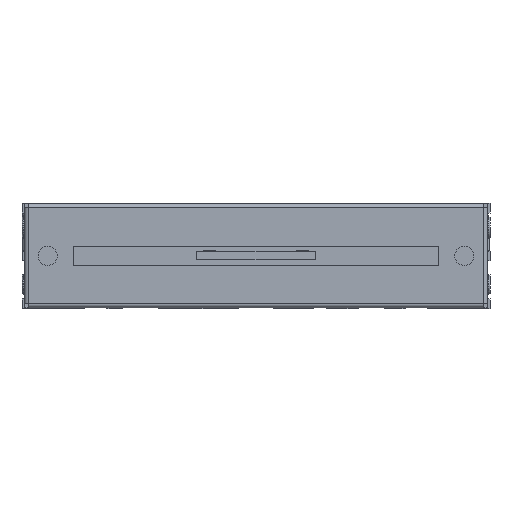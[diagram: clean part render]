
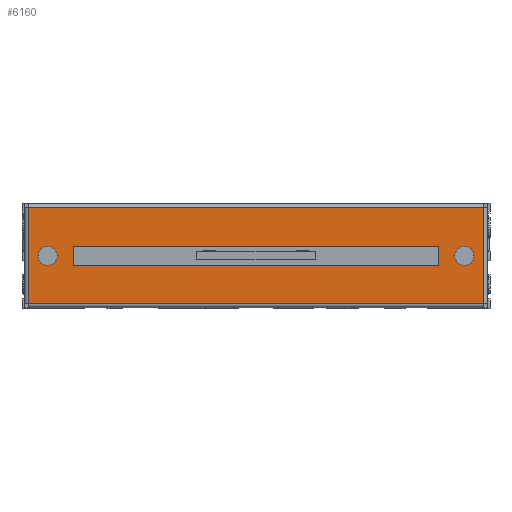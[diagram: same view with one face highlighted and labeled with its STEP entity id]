
A CAD part, top view. The second image highlights one B-rep face of the part: STEP entity #6160.
In plain terms, the highlighted planar face has unit normal (0, 0, 1).
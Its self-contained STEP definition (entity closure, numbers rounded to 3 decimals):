
#1298 = VERTEX_POINT('',#1299);
#1299 = CARTESIAN_POINT('',(-35.5,7.5,0.));
#1308 = VERTEX_POINT('',#1309);
#1309 = CARTESIAN_POINT('',(35.5,7.5,0.));
#1316 = EDGE_CURVE('',#1298,#1308,#1317,.T.);
#1317 = LINE('',#1318,#1319);
#1318 = CARTESIAN_POINT('',(-35.5,7.5,0.));
#1319 = VECTOR('',#1320,1.);
#1320 = DIRECTION('',(1.,0.,0.));
#6160 = ADVANCED_FACE('',(#6161,#6186,#6197,#6208),#6242,.T.);
#6161 = FACE_BOUND('',#6162,.T.);
#6162 = EDGE_LOOP('',(#6163,#6164,#6172,#6180));
#6163 = ORIENTED_EDGE('',*,*,#1316,.F.);
#6164 = ORIENTED_EDGE('',*,*,#6165,.T.);
#6165 = EDGE_CURVE('',#1298,#6166,#6168,.T.);
#6166 = VERTEX_POINT('',#6167);
#6167 = CARTESIAN_POINT('',(-35.5,-7.5,0.));
#6168 = LINE('',#6169,#6170);
#6169 = CARTESIAN_POINT('',(-35.5,7.5,0.));
#6170 = VECTOR('',#6171,1.);
#6171 = DIRECTION('',(0.,-1.,0.));
#6172 = ORIENTED_EDGE('',*,*,#6173,.T.);
#6173 = EDGE_CURVE('',#6166,#6174,#6176,.T.);
#6174 = VERTEX_POINT('',#6175);
#6175 = CARTESIAN_POINT('',(35.5,-7.5,0.));
#6176 = LINE('',#6177,#6178);
#6177 = CARTESIAN_POINT('',(-35.5,-7.5,0.));
#6178 = VECTOR('',#6179,1.);
#6179 = DIRECTION('',(1.,0.,0.));
#6180 = ORIENTED_EDGE('',*,*,#6181,.F.);
#6181 = EDGE_CURVE('',#1308,#6174,#6182,.T.);
#6182 = LINE('',#6183,#6184);
#6183 = CARTESIAN_POINT('',(35.5,7.5,0.));
#6184 = VECTOR('',#6185,1.);
#6185 = DIRECTION('',(0.,-1.,0.));
#6186 = FACE_BOUND('',#6187,.T.);
#6187 = EDGE_LOOP('',(#6188));
#6188 = ORIENTED_EDGE('',*,*,#6189,.T.);
#6189 = EDGE_CURVE('',#6190,#6190,#6192,.T.);
#6190 = VERTEX_POINT('',#6191);
#6191 = CARTESIAN_POINT('',(31.,0.,0.));
#6192 = CIRCLE('',#6193,1.5);
#6193 = AXIS2_PLACEMENT_3D('',#6194,#6195,#6196);
#6194 = CARTESIAN_POINT('',(32.5,0.,0.));
#6195 = DIRECTION('',(0.,0.,-1.));
#6196 = DIRECTION('',(-1.,0.,0.));
#6197 = FACE_BOUND('',#6198,.T.);
#6198 = EDGE_LOOP('',(#6199));
#6199 = ORIENTED_EDGE('',*,*,#6200,.T.);
#6200 = EDGE_CURVE('',#6201,#6201,#6203,.T.);
#6201 = VERTEX_POINT('',#6202);
#6202 = CARTESIAN_POINT('',(-31.,0.,0.));
#6203 = CIRCLE('',#6204,1.5);
#6204 = AXIS2_PLACEMENT_3D('',#6205,#6206,#6207);
#6205 = CARTESIAN_POINT('',(-32.5,0.,0.));
#6206 = DIRECTION('',(0.,0.,-1.));
#6207 = DIRECTION('',(1.,0.,0.));
#6208 = FACE_BOUND('',#6209,.T.);
#6209 = EDGE_LOOP('',(#6210,#6220,#6228,#6236));
#6210 = ORIENTED_EDGE('',*,*,#6211,.T.);
#6211 = EDGE_CURVE('',#6212,#6214,#6216,.T.);
#6212 = VERTEX_POINT('',#6213);
#6213 = CARTESIAN_POINT('',(28.5,-1.5,0.));
#6214 = VERTEX_POINT('',#6215);
#6215 = CARTESIAN_POINT('',(-28.5,-1.5,0.));
#6216 = LINE('',#6217,#6218);
#6217 = CARTESIAN_POINT('',(-32.3,-1.5,0.));
#6218 = VECTOR('',#6219,1.);
#6219 = DIRECTION('',(-1.,0.,0.));
#6220 = ORIENTED_EDGE('',*,*,#6221,.T.);
#6221 = EDGE_CURVE('',#6214,#6222,#6224,.T.);
#6222 = VERTEX_POINT('',#6223);
#6223 = CARTESIAN_POINT('',(-28.5,1.5,0.));
#6224 = LINE('',#6225,#6226);
#6225 = CARTESIAN_POINT('',(-28.5,3.3,0.));
#6226 = VECTOR('',#6227,1.);
#6227 = DIRECTION('',(0.,1.,0.));
#6228 = ORIENTED_EDGE('',*,*,#6229,.F.);
#6229 = EDGE_CURVE('',#6230,#6222,#6232,.T.);
#6230 = VERTEX_POINT('',#6231);
#6231 = CARTESIAN_POINT('',(28.5,1.5,0.));
#6232 = LINE('',#6233,#6234);
#6233 = CARTESIAN_POINT('',(-32.3,1.5,0.));
#6234 = VECTOR('',#6235,1.);
#6235 = DIRECTION('',(-1.,0.,0.));
#6236 = ORIENTED_EDGE('',*,*,#6237,.F.);
#6237 = EDGE_CURVE('',#6212,#6230,#6238,.T.);
#6238 = LINE('',#6239,#6240);
#6239 = CARTESIAN_POINT('',(28.5,3.3,0.));
#6240 = VECTOR('',#6241,1.);
#6241 = DIRECTION('',(0.,1.,0.));
#6242 = PLANE('',#6243);
#6243 = AXIS2_PLACEMENT_3D('',#6244,#6245,#6246);
#6244 = CARTESIAN_POINT('',(-36.1,8.1,0.));
#6245 = DIRECTION('',(0.,0.,1.));
#6246 = DIRECTION('',(1.,0.,0.));
